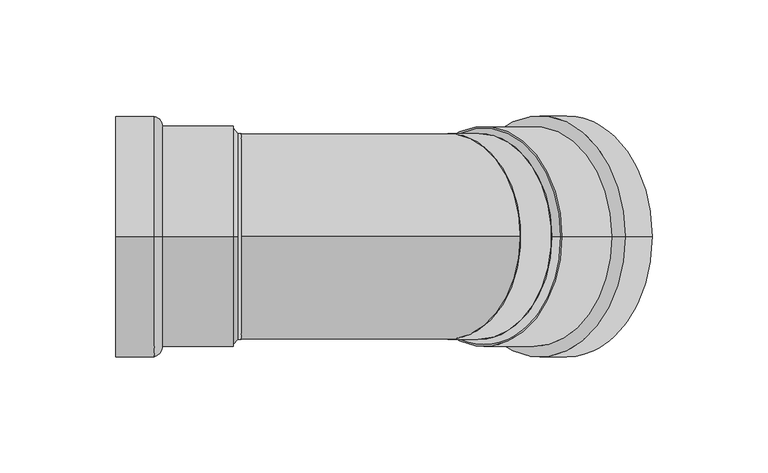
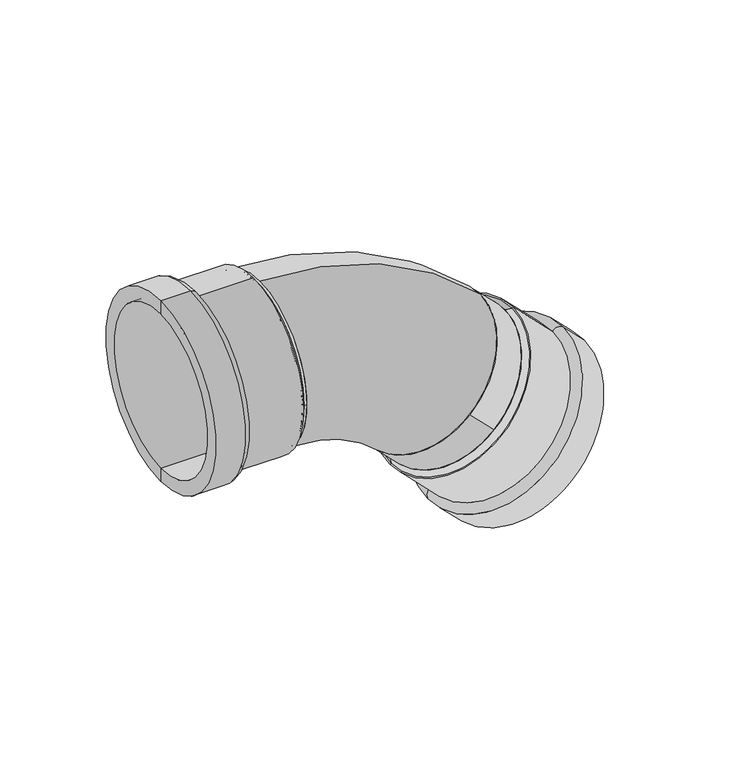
"""IFC4 building model written with IfcOpenShell, lengths in millimetres: pipe fitting geometry, VALTEC_VTi.959.I_Угольник 45° (раструб–раструб) нержавеющая сталь : Тип 1."""

from ifc_helpers import new_model, si_unit, point, frame, frame_2d, origin, origin_2d, place, context, project, spatial, polyline, circle_curve, ellipse_curve, trimmed, segment, composite_curve, outline, extrude, source, transform, mapped, element, save
from ifc_brep_helpers import plane_surface, cylinder_surface, revolved_surface, advanced_brep


def pipe_fitting_297001e4(model_context):
    return source(origin(), model_context, "Body", "SolidModel", [
        advanced_brep(
        [(-3.5, 0.0, 46.6725), (-3.5, 0.0, -46.6725), (-1.5, 0.0, 44.45), (-1.5, 0.0, -44.45)],
        [
            (0, 1, circle_curve(frame((-3.5, 0.0, 0.0), z_axis=(-1.0, 0.0, 0.0), x_axis=(0.0, 0.0, 1.0)), 46.6725)),
            (1, 0, circle_curve(frame((-3.5, 0.0, 0.0), z_axis=(-1.0, 0.0, 0.0), x_axis=(0.0, 0.0, -1.0)), 46.6725)),
            (2, 3, circle_curve(frame((-1.5, 0.0, 0.0), z_axis=(1.0, 0.0, 0.0), x_axis=(0.0, 0.0, -1.0)), 44.45)),
            (3, 2, circle_curve(frame((-1.5, 0.0, 0.0), z_axis=(1.0, 0.0, 0.0), x_axis=(0.0, 0.0, 1.0)), 44.45)),
            (3, 1),
            (0, 2),
        ],
        [
            plane_surface(frame((-3.5, 0.0, 0.0), z_axis=(-1.0, 0.0, 0.0), x_axis=(0.0, 1.0, 0.0))),
            plane_surface(frame((-1.5, 0.0, 0.0), z_axis=(1.0, 0.0, 0.0), x_axis=(0.0, 1.0, 0.0))),
            revolved_surface(polyline([(-1.5, 0.0, -44.449999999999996), (-3.5, 0.0, -46.6725)]), (38.5, 0.0, 0.0), (-1.0, 0.0, 0.0)),
            revolved_surface(polyline([(-1.5, 0.0, 44.449999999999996), (-3.5, 0.0, 46.6725)]), (38.5, 0.0, 0.0), (-1.0, 0.0, 0.0)),
        ],
        [
            (0, [[1, 2]]),
            (1, [[3, 4]]),
            (2, [[-4, 5, -1, 6]]),
            (3, [[-3, -6, -2, -5]]),
        ],
    ),
        advanced_brep(
        [(71.6156141, 0.0, -85.4295878), (137.6204966, 0.0, -19.4247053), (71.0658386, 0.0, -81.7367226), (133.9276315, 0.0, -18.8749298)],
        [
            (0, 1, circle_curve(frame((104.6180554, 0.0, -52.4271465), z_axis=(0.7071067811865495, 0.0, -0.7071067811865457), x_axis=(-0.7071067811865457, 0.0, -0.7071067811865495)), 46.6725)),
            (1, 0, circle_curve(frame((104.6180554, 0.0, -52.4271465), z_axis=(0.7071067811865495, 0.0, -0.7071067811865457), x_axis=(0.7071067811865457, 0.0, 0.7071067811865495)), 46.6725)),
            (2, 3, circle_curve(frame((102.496735, 0.0, -50.3058262), z_axis=(-0.7071067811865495, 0.0, 0.7071067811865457), x_axis=(0.7071067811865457, 0.0, 0.7071067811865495)), 44.45)),
            (3, 2, circle_curve(frame((102.496735, 0.0, -50.3058262), z_axis=(-0.7071067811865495, 0.0, 0.7071067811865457), x_axis=(-0.7071067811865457, 0.0, -0.7071067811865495)), 44.45)),
            (3, 1),
            (0, 2),
        ],
        [
            plane_surface(frame((104.6180554, 0.0, -52.4271465), z_axis=(0.7071067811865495, 0.0, -0.7071067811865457), x_axis=(0.0, 1.0, 0.0))),
            plane_surface(frame((102.496735, 0.0, -50.3058262), z_axis=(-0.7071067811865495, 0.0, 0.7071067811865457), x_axis=(0.0, 1.0, 0.0))),
            revolved_surface(polyline([(133.92763142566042, 0.0, -18.874929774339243), (137.6204966, 0.0, -19.4247053)]), (60.0703282, 0.0, -7.8794193), (0.7071067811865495, 0.0, -0.7071067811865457)),
            revolved_surface(polyline([(71.0658385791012, 0.0, -81.7367226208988), (71.61561410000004, 0.0, -85.42958780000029)]), (60.0703282, 0.0, -7.8794193), (0.7071067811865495, 0.0, -0.7071067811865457)),
        ],
        [
            (0, [[1, 2]]),
            (1, [[3, 4]]),
            (2, [[-4, 5, -1, 6]]),
            (3, [[-3, -6, -2, -5]]),
        ],
    ),
        advanced_brep(
        [(-54.0, 0.0, -44.45), (-54.0, 0.0, 44.45), (-54.0, 0.0, 52.0), (-54.0, 0.0, -52.0), (-3.5, 0.0, -44.45), (-3.5, 0.0, 44.45), (-3.5, 0.0, -47.5), (-3.5, 0.0, 47.5), (-33.89, 0.0, -47.5), (-33.89, 0.0, 47.5), (-37.6, 0.0, -52.0), (-37.6, 0.0, 52.0)],
        [
            (0, 1, circle_curve(frame((-54.0, 0.0, 0.0), z_axis=(1.0, 0.0, 0.0), x_axis=(0.0, 0.0, 1.0)), 44.45)),
            (1, 2),
            (2, 3, circle_curve(frame((-54.0, 0.0, 0.0), z_axis=(-1.0, 0.0, 0.0), x_axis=(0.0, 0.0, 1.0)), 52.0)),
            (3, 0),
            (1, 0, circle_curve(frame((-54.0, 0.0, 0.0), z_axis=(1.0, 0.0, 0.0), x_axis=(0.0, 0.0, 1.0)), 44.45)),
            (3, 2, circle_curve(frame((-54.0, 0.0, 0.0), z_axis=(-1.0, 0.0, 0.0), x_axis=(0.0, 0.0, 1.0)), 52.0)),
            (4, 5, circle_curve(frame((-3.5, 0.0, 0.0), z_axis=(1.0, 0.0, 0.0), x_axis=(0.0, 0.0, 1.0)), 44.45)),
            (5, 1),
            (0, 4),
            (5, 4, circle_curve(frame((-3.5, 0.0, 0.0), z_axis=(1.0, 0.0, 0.0), x_axis=(0.0, 0.0, 1.0)), 44.45)),
            (6, 7, circle_curve(frame((-3.5, 0.0, 0.0), z_axis=(1.0, 0.0, 0.0), x_axis=(0.0, 0.0, 1.0)), 47.5)),
            (7, 5),
            (4, 6),
            (7, 6, circle_curve(frame((-3.5, 0.0, 0.0), z_axis=(1.0, 0.0, 0.0), x_axis=(0.0, 0.0, 1.0)), 47.5)),
            (8, 9, circle_curve(frame((-33.89, 0.0, 0.0), z_axis=(1.0, 0.0, 0.0), x_axis=(0.0, 0.0, 1.0)), 47.5)),
            (9, 7),
            (6, 8),
            (9, 8, circle_curve(frame((-33.89, 0.0, 0.0), z_axis=(1.0, 0.0, 0.0), x_axis=(0.0, 0.0, 1.0)), 47.5)),
            (10, 11, circle_curve(frame((-37.6, 0.0, 0.0), z_axis=(1.0, 0.0, 0.0), x_axis=(0.0, 0.0, 1.0)), 52.0)),
            (11, 9, circle_curve(frame((-38.337843, 0.0, 47.612345), z_axis=(0.0, 1.0, 0.0), x_axis=(1.0, 0.0, 0.0)), 4.4492616)),
            (8, 10, circle_curve(frame((-38.337843, 0.0, -47.612345), z_axis=(0.0, 1.0, 0.0), x_axis=(1.0, 0.0, 0.0)), 4.4492616)),
            (11, 10, circle_curve(frame((-37.6, 0.0, 0.0), z_axis=(1.0, 0.0, 0.0), x_axis=(0.0, 0.0, 1.0)), 52.0)),
            (2, 11),
            (10, 3),
        ],
        [
            plane_surface(frame((-54.0, 0.0, 0.0), z_axis=(-1.0, 0.0, 0.0), x_axis=(0.0, 0.0, 1.0))),
            revolved_surface(polyline([(-54.0, 0.0, 44.45), (-3.5, 0.0, 44.45)]), (-24.2906392, 0.0, 0.0), (-1.0, 0.0, 0.0)),
            plane_surface(frame((-3.5, 0.0, 0.0), z_axis=(1.0, 0.0, 0.0), x_axis=(0.0, 0.0, 1.0))),
            cylinder_surface(frame((-24.2906392, 0.0, 0.0), z_axis=(-1.0, 0.0, 0.0), x_axis=(0.0, 0.0, 1.0)), 47.5),
            revolved_surface(trimmed(ellipse_curve(frame((-38.337843, 0.0, 47.612345), z_axis=(0.0, -1.0, 0.0), x_axis=(1.0, 0.0, 0.0)), 4.4492616, 4.4492616), [point((-33.89, 0.0, 47.5))], [point((-37.6, 0.0, 52.0))], True, "CARTESIAN"), (-24.2906392, 0.0, 0.0), (-1.0, 0.0, 0.0)),
            cylinder_surface(frame((-24.2906392, 0.0, 0.0), z_axis=(-1.0, 0.0, 0.0), x_axis=(0.0, 0.0, 1.0)), 52.0),
        ],
        [
            (0, [[1, 2, 3, 4]]),
            (0, [[5, -4, 6, -2]]),
            (1, [[7, 8, -1, 9]]),
            (1, [[10, -9, -5, -8]]),
            (2, [[11, 12, -7, 13]]),
            (2, [[14, -13, -10, -12]]),
            (3, [[15, 16, -11, 17]]),
            (3, [[18, -17, -14, -16]]),
            (4, [[19, 20, -15, 21]]),
            (4, [[22, -21, -18, -20]]),
            (5, [[-3, 23, -19, 24]]),
            (5, [[-6, -24, -22, -23]]),
        ],
    ),
        advanced_brep(
        [(171.7578443, 0.0, -56.7051425), (108.8960514, 0.0, -119.5669354), (103.5573952, 0.0, -124.9055916), (177.0965005, 0.0, -51.3664863), (136.0489518, 0.0, -20.9962501), (73.187159, 0.0, -83.8580429), (138.2056275, 0.0, -18.8395744), (71.0304833, 0.0, -86.0147186), (159.6946026, 0.0, -40.3285495), (92.5194584, 0.0, -107.5036937), (165.4999492, 0.0, -39.7699351), (91.960844, 0.0, -113.3090404)],
        [
            (0, 1, circle_curve(frame((140.3269478, 0.0, -88.136039), z_axis=(-0.7071067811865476, 0.0, 0.7071067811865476), x_axis=(-0.7071067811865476, 0.0, -0.7071067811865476)), 44.45)),
            (1, 2),
            (2, 3, circle_curve(frame((140.3269478, 0.0, -88.136039), z_axis=(0.7071067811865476, 0.0, -0.7071067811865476), x_axis=(-0.7071067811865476, 0.0, -0.7071067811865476)), 52.0)),
            (3, 0),
            (1, 0, circle_curve(frame((140.3269478, 0.0, -88.136039), z_axis=(-0.7071067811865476, 0.0, 0.7071067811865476), x_axis=(-0.7071067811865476, 0.0, -0.7071067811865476)), 44.45)),
            (3, 2, circle_curve(frame((140.3269478, 0.0, -88.136039), z_axis=(0.7071067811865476, 0.0, -0.7071067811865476), x_axis=(-0.7071067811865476, 0.0, -0.7071067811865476)), 52.0)),
            (4, 5, circle_curve(frame((104.6180554, 0.0, -52.4271465), z_axis=(-0.7071067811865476, 0.0, 0.7071067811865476), x_axis=(-0.7071067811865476, 0.0, -0.7071067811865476)), 44.45)),
            (5, 1),
            (0, 4),
            (5, 4, circle_curve(frame((104.6180554, 0.0, -52.4271465), z_axis=(-0.7071067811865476, 0.0, 0.7071067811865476), x_axis=(-0.7071067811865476, 0.0, -0.7071067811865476)), 44.45)),
            (6, 7, circle_curve(frame((104.6180554, 0.0, -52.4271465), z_axis=(-0.7071067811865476, 0.0, 0.7071067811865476), x_axis=(-0.7071067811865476, 0.0, -0.7071067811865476)), 47.5)),
            (7, 5),
            (4, 6),
            (7, 6, circle_curve(frame((104.6180554, 0.0, -52.4271465), z_axis=(-0.7071067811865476, 0.0, 0.7071067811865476), x_axis=(-0.7071067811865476, 0.0, -0.7071067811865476)), 47.5)),
            (8, 9, circle_curve(frame((126.1070305, 0.0, -73.9161216), z_axis=(-0.7071067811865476, 0.0, 0.7071067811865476), x_axis=(-0.7071067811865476, 0.0, -0.7071067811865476)), 47.5)),
            (9, 7),
            (6, 8),
            (9, 8, circle_curve(frame((126.1070305, 0.0, -73.9161216), z_axis=(-0.7071067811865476, 0.0, 0.7071067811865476), x_axis=(-0.7071067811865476, 0.0, -0.7071067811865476)), 47.5)),
            (10, 11, circle_curve(frame((128.7303966, 0.0, -76.5394878), z_axis=(-0.7071067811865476, 0.0, 0.7071067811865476), x_axis=(-0.7071067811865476, 0.0, -0.7071067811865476)), 52.0)),
            (11, 9, circle_curve(frame((95.5851184, 0.0, -110.7282336), z_axis=(0.0, 1.0, 0.0), x_axis=(-0.7071067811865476, 0.0, 0.7071067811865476)), 4.4492616)),
            (8, 10, circle_curve(frame((162.9191424, 0.0, -43.3942095), z_axis=(0.0, 1.0, 0.0), x_axis=(-0.7071067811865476, 0.0, 0.7071067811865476)), 4.4492616)),
            (11, 10, circle_curve(frame((128.7303966, 0.0, -76.5394878), z_axis=(-0.7071067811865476, 0.0, 0.7071067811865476), x_axis=(-0.7071067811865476, 0.0, -0.7071067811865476)), 52.0)),
            (2, 11),
            (10, 3),
        ],
        [
            plane_surface(frame((140.3269478, 0.0, -88.136039), z_axis=(0.7071067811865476, 0.0, -0.7071067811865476), x_axis=(-0.7071067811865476, 0.0, -0.7071067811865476))),
            revolved_surface(polyline([(108.89605137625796, 0.0, -119.56693542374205), (73.18715892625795, 0.0, -83.85804297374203)]), (119.3192573, 0.0, -67.1283485), (0.7071067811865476, 0.0, -0.7071067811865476)),
            plane_surface(frame((104.6180554, 0.0, -52.4271465), z_axis=(-0.7071067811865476, 0.0, 0.7071067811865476), x_axis=(-0.7071067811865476, 0.0, -0.7071067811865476))),
            cylinder_surface(frame((119.3192573, 0.0, -67.1283485), z_axis=(0.7071067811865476, 0.0, -0.7071067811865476), x_axis=(-0.7071067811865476, 0.0, -0.7071067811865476)), 47.5),
            revolved_surface(trimmed(ellipse_curve(frame((95.5851184, 0.0, -110.7282336), z_axis=(0.0, -1.0, 0.0), x_axis=(-0.7071067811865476, 0.0, 0.7071067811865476)), 4.4492616, 4.4492616), [point((92.5194584, 0.0, -107.5036937))], [point((91.960844, 0.0, -113.3090404))], True, "CARTESIAN"), (119.3192573, 0.0, -67.1283485), (0.7071067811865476, 0.0, -0.7071067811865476)),
            cylinder_surface(frame((119.3192573, 0.0, -67.1283485), z_axis=(0.7071067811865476, 0.0, -0.7071067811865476), x_axis=(-0.7071067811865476, 0.0, -0.7071067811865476)), 52.0),
        ],
        [
            (0, [[1, 2, 3, 4]]),
            (0, [[5, -4, 6, -2]]),
            (1, [[7, 8, -1, 9]]),
            (1, [[10, -9, -5, -8]]),
            (2, [[11, 12, -7, 13]]),
            (2, [[14, -13, -10, -12]]),
            (3, [[15, 16, -11, 17]]),
            (3, [[18, -17, -14, -16]]),
            (4, [[19, 20, -15, 21]]),
            (4, [[22, -21, -18, -20]]),
            (5, [[-3, 23, -19, 24]]),
            (5, [[-6, -24, -22, -23]]),
        ],
    ),
        extrude(outline(composite_curve([segment(trimmed(circle_curve(origin_2d(), 44.45), [point((-44.45, 0.0))], [point((44.45, 0.0))], False, "CARTESIAN"), True, "CONTINUOUS"), segment(trimmed(circle_curve(origin_2d(), 44.45), [point((44.45, 0.0))], [point((-44.45, 0.0))], False, "CARTESIAN"), True, "CONTINUOUS")], self_intersect=False)), frame((-1.5, 0.0, 0.0), z_axis=(1.0, 0.0, 0.0), x_axis=(0.0, 1.0, 0.0)), (0.0, 0.0, 1.0), 1.5),
        extrude(outline(composite_curve([segment(trimmed(circle_curve(frame_2d((0.0, -44.45)), 44.45), [point((0.0, -88.9))], [point((0.0, 0.0))], False, "CARTESIAN"), True, "CONTINUOUS"), segment(trimmed(circle_curve(frame_2d((0.0, -44.45)), 44.45), [point((0.0, 0.0))], [point((0.0, -88.9))], False, "CARTESIAN"), True, "CONTINUOUS")], self_intersect=False)), frame((102.496735, -44.45, -50.3058262), z_axis=(-0.7071067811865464, 0.0, 0.7071067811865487), x_axis=(-0.7071067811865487, 0.0, -0.7071067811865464)), (0.0, 0.0, 1.0), 18.9522728),
        advanced_brep(
        [(0.0, 0.0, -44.45), (0.0, 0.0, 44.45), (57.664558, 0.0, -68.335442), (120.5263509, 0.0, -5.4736491)],
        [
            (0, 1, circle_curve(frame((0.0, 0.0, 0.0), z_axis=(-1.0, 0.0, 0.0), x_axis=(0.0, 0.0, 1.0)), 44.45)),
            (1, 0, circle_curve(frame((0.0, 0.0, 0.0), z_axis=(-1.0, 0.0, 0.0), x_axis=(0.0, 0.0, 1.0)), 44.45)),
            (2, 3, circle_curve(frame((89.0954544, 0.0, -36.9045456), z_axis=(0.7071067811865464, 0.0, -0.7071067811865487), x_axis=(0.7071067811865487, 0.0, 0.7071067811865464)), 44.45)),
            (3, 2, circle_curve(frame((89.0954544, 0.0, -36.9045456), z_axis=(0.7071067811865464, 0.0, -0.7071067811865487), x_axis=(0.7071067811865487, 0.0, 0.7071067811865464)), 44.45)),
            (3, 1, circle_curve(frame((0.0, 0.0, -126.0), z_axis=(0.0, -1.0, 0.0), x_axis=(0.0, 0.0, 1.0)), 170.45)),
            (0, 2, circle_curve(frame((0.0, 0.0, -126.0), z_axis=(0.0, 1.0, 0.0), x_axis=(0.0, 0.0, 1.0)), 81.55)),
        ],
        [
            plane_surface(frame((0.0, 0.0, 0.0), z_axis=(-1.0, 0.0, 0.0), x_axis=(0.0, -1.0, 0.0))),
            plane_surface(frame((89.0954544, 0.0, -36.9045456), z_axis=(0.7071067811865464, 0.0, -0.7071067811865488), x_axis=(0.0, -1.0, 0.0))),
            revolved_surface(trimmed(ellipse_curve(frame((0.0, 0.0, 0.0), z_axis=(-1.0, 0.0, 0.0), x_axis=(0.0, 0.0, 1.0)), 44.45, 44.45), [point((0.0, 0.0, -44.45))], [point((0.0, 0.0, 44.45))], True, "CARTESIAN"), (0.0, 0.0, -126.0), (0.0, 1.0, 0.0)),
            revolved_surface(trimmed(ellipse_curve(frame((0.0, 0.0, 0.0), z_axis=(-1.0, 0.0, 0.0), x_axis=(0.0, 0.0, 1.0)), 44.45, 44.45), [point((0.0, 0.0, 44.45))], [point((0.0, 0.0, -44.45))], True, "CARTESIAN"), (0.0, 0.0, -126.0), (0.0, 1.0, 0.0)),
        ],
        [
            (0, [[1, 2]]),
            (1, [[3, 4]]),
            (2, [[5, -1, 6, -4]]),
            (3, [[-6, -2, -5, -3]]),
        ],
    ),
    ])


if __name__ == "__main__":
    model = new_model("IFC4")
    model_context = context("Model", 3, world=origin())
    ifc_project = project(units=[si_unit("LENGTHUNIT", "METRE", prefix="MILLI")], contexts=[model_context])
    site = spatial("IfcSite", under=ifc_project)
    building = spatial("IfcBuilding", under=site)
    placement = place(None, origin())
    pipe_fitting_shape = pipe_fitting_297001e4(model_context)
    element("IfcPipeFitting", 1, ObjectType="VALTEC_VTi.959.I_Угольник 45° (раструб–раструб) нержавеющая сталь : Тип 1", at=placement, inside=building, context=model_context, shape_type="MappedRepresentation", body=[
        mapped(pipe_fitting_shape, transform((0.0, 0.0, 0.0), x_axis=(1.0, 0.0, 0.0), y_axis=(0.0, 1.0, 0.0), z_axis=(0.0, 0.0, 1.0))),
    ])
    save(model, "model.ifc")
